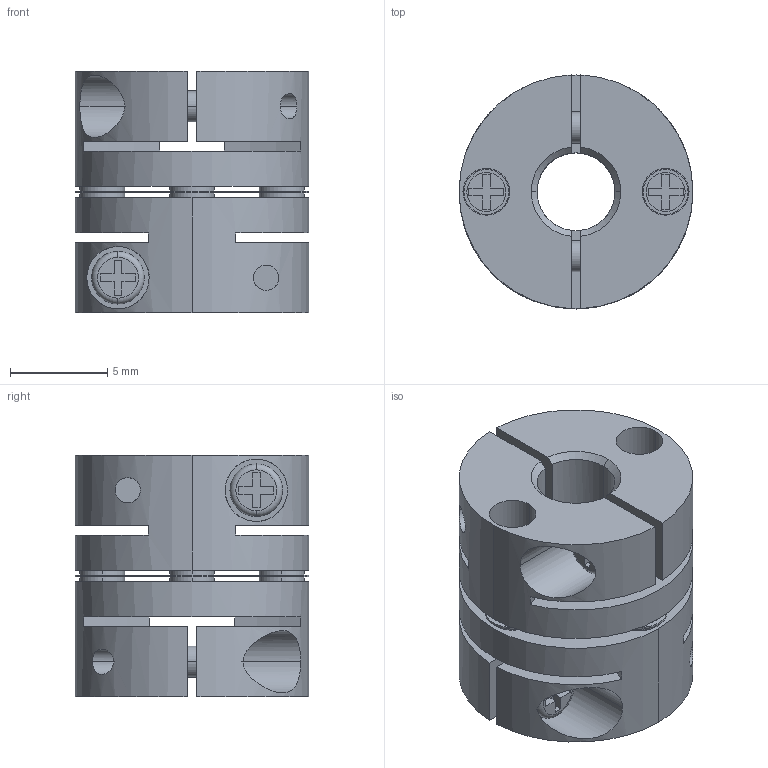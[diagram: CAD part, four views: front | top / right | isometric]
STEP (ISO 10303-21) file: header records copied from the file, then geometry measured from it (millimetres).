
FILE_DESCRIPTION((''),'2;1');
FILE_NAME('LAS-12C-4×5.stp','2011-08-11T12:00:35',(''),(''),'AutoCAD STEP 2000i','AutoCAD 2000i',', , ');
FILE_SCHEMA(('CONFIG_CONTROL_DESIGN'));
Length unit declared in the file: millimetre
Products named in the file (6): LAS-12C-3×5; 忣兜1; LA-1202-D05; LA-1202-D03-1; LA-1202-D03; LAS12-ITA
Assembly tree (5 placements, depth 2):
  LAS-12C-3×5
    忣兜1
    LA-1202-D05
    LA-1202-D03-1
    LA-1202-D03
    LAS12-ITA
Bounding box: 12 x 12 x 12.4 mm (x, y, z)
Volume: 869.3 mm3; surface area: 1767.5 mm2
Topology: 1 solids, 1 shells, 264 faces, 692 edges, 460 vertices
Faces by surface type: plane 156, cylinder 88, cone 12, torus 8
Entity records: 8729 total; most frequent: CARTESIAN_POINT 1814, DIRECTION 1440, ORIENTED_EDGE 1384, EDGE_CURVE 692, AXIS2_PLACEMENT_3D 502, VERTEX_POINT 460, VECTOR 436, LINE 436
